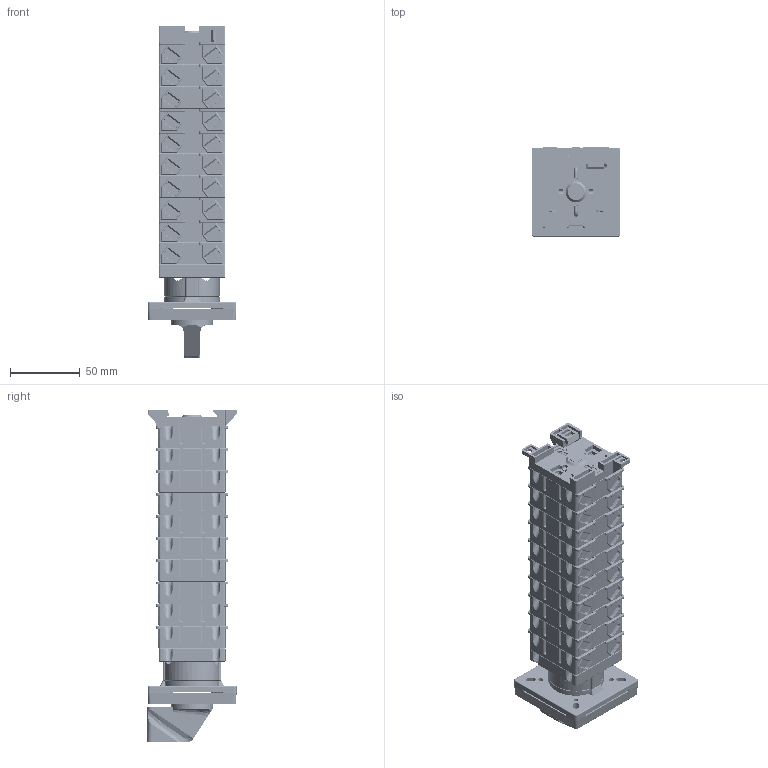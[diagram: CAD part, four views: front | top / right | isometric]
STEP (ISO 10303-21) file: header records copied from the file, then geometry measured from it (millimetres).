
FILE_DESCRIPTION (( 'STEP AP214' ), '1' );
FILE_NAME ('Ïåðåêëþ÷àòåëü 4G16,25-XXXX-U-S18-R114 10ê.STEP', '2022-12-02T13:13:24', ( '' ), ( '' ), 'SwSTEP 2.0', 'SolidWorks 2018', '' );
FILE_SCHEMA (( 'AUTOMOTIVE_DESIGN' ));
Length unit declared in the file: millimetre
Products named in the file (1): Ïåðåêëþ÷àòåëü 4G16,25-XXXX-U-S18-R114 10ê
Bounding box: 64 x 64.21 x 238.8 mm (x, y, z)
Volume: 446571.4 mm3; surface area: 189746 mm2
Topology: 29 solids, 109 shells, 9405 faces, 24837 edges, 15790 vertices
Faces by surface type: plane 5536, cylinder 2817, torus 468, cone 381, bspline 143, sphere 60
Entity records: 403983 total; most frequent: CARTESIAN_POINT 69775, ORIENTED_EDGE 49568, DIRECTION 46569, EDGE_CURVE 24784, VECTOR 17475, LINE 17475, VERTEX_POINT 15778, AXIS2_PLACEMENT_3D 14547
